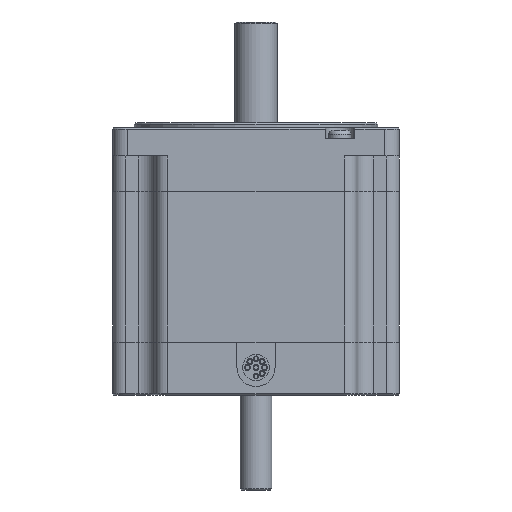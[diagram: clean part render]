
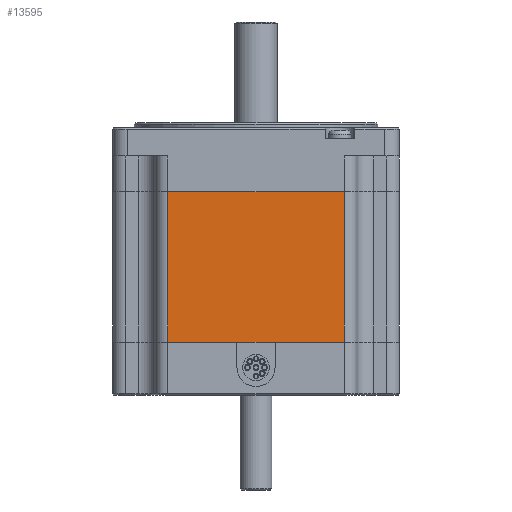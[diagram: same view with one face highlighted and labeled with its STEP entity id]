
A CAD part, front view. The second image highlights one B-rep face of the part: STEP entity #13595.
In plain terms, the highlighted planar face has unit normal (0, -1, 0).
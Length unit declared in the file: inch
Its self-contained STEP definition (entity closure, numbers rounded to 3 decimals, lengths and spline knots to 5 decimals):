
#9004 = CARTESIAN_POINT ( 'NONE',  ( -1.04, -1.689, -0.75 ) ) ;
#10802 = VERTEX_POINT ( 'NONE', #9004 ) ;
#11523 = CARTESIAN_POINT ( 'NONE',  ( 1.04, -1.689, -2.525 ) ) ;
#11735 = PLANE ( 'NONE',  #11843 ) ;
#11801 = DIRECTION ( 'NONE',  ( 0., 0., 1. ) ) ;
#11803 = VECTOR ( 'NONE', #11801, 39.37008 ) ;
#11804 = CARTESIAN_POINT ( 'NONE',  ( 1.04, -1.689, -2.525 ) ) ;
#11805 = LINE ( 'NONE', #11804, #11803 ) ;
#11833 = FACE_OUTER_BOUND ( 'NONE', #13599, .T. ) ;
#11835 = CARTESIAN_POINT ( 'NONE',  ( -1.04, -1.689, -2.525 ) ) ;
#11836 = LINE ( 'NONE', #11867, #11866 ) ;
#11843 = AXIS2_PLACEMENT_3D ( 'NONE', #11870, #11869, #11868 ) ;
#11858 = DIRECTION ( 'NONE',  ( 0., 0., 1. ) ) ;
#11859 = VECTOR ( 'NONE', #11858, 39.37008 ) ;
#11860 = CARTESIAN_POINT ( 'NONE',  ( -1.04, -1.689, -2.525 ) ) ;
#11861 = LINE ( 'NONE', #11860, #11859 ) ;
#11865 = DIRECTION ( 'NONE',  ( -1., 0., 0. ) ) ;
#11866 = VECTOR ( 'NONE', #11865, 39.37008 ) ;
#11867 = CARTESIAN_POINT ( 'NONE',  ( 1.04, -1.689, -2.525 ) ) ;
#11868 = DIRECTION ( 'NONE',  ( -1., 0., 0. ) ) ;
#11869 = DIRECTION ( 'NONE',  ( 0., 1., 0. ) ) ;
#11870 = CARTESIAN_POINT ( 'NONE',  ( 1.04, -1.689, -2.525 ) ) ;
#12157 = DIRECTION ( 'NONE',  ( -1., 0., 0. ) ) ;
#12158 = VECTOR ( 'NONE', #12157, 39.37008 ) ;
#12162 = CARTESIAN_POINT ( 'NONE',  ( 1.04, -1.689, -0.75 ) ) ;
#12163 = LINE ( 'NONE', #12162, #12158 ) ;
#12341 = CARTESIAN_POINT ( 'NONE',  ( 1.04, -1.689, -0.75 ) ) ;
#13525 = VERTEX_POINT ( 'NONE', #11523 ) ;
#13526 = ORIENTED_EDGE ( 'NONE', *, *, #17483, .T. ) ;
#13586 = EDGE_CURVE ( 'NONE', #13525, #17525, #11805, .T. ) ;
#13592 = ORIENTED_EDGE ( 'NONE', *, *, #13596, .F. ) ;
#13593 = VERTEX_POINT ( 'NONE', #11835 ) ;
#13595 = ADVANCED_FACE ( 'NONE', ( #11833 ), #11735, .F. ) ;
#13596 = EDGE_CURVE ( 'NONE', #13525, #13593, #11836, .T. ) ;
#13597 = EDGE_CURVE ( 'NONE', #13593, #10802, #11861, .T. ) ;
#13599 = EDGE_LOOP ( 'NONE', ( #13526, #13601, #13592, #13602 ) ) ;
#13601 = ORIENTED_EDGE ( 'NONE', *, *, #13597, .F. ) ;
#13602 = ORIENTED_EDGE ( 'NONE', *, *, #13586, .T. ) ;
#17483 = EDGE_CURVE ( 'NONE', #17525, #10802, #12163, .T. ) ;
#17525 = VERTEX_POINT ( 'NONE', #12341 ) ;
